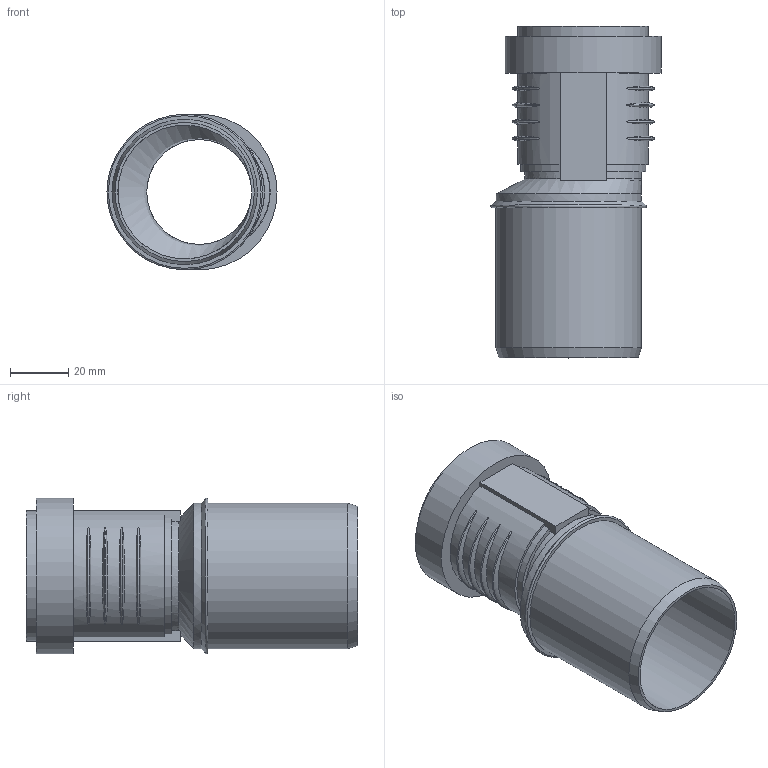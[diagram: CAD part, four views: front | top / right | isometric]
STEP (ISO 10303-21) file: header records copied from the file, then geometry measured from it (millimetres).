
FILE_DESCRIPTION(/* description */ (''),/* implementation_level */ '2;1');
FILE_NAME(/* name */ 'Z:\Geberit\Export\NewStep\390271.stp',/* time_stamp */ '2014-04-02T08:10:34+02:00',/* author */ ('ML'),/* organization */ (''),/* preprocessor_version */ 'ST-DEVELOPER v15.2',/* originating_system */ 'Autodesk Inventor 2014',/* authorisation */ '');
FILE_SCHEMA (('AUTOMOTIVE_DESIGN { 1 0 10303 214 3 1 1 }'));
Length unit declared in the file: millimetre
Products named in the file (3): 861301; 861400; 390271
Bounding box: 58.67 x 114.4 x 53.7 mm (x, y, z)
Volume: 38538.1 mm3; surface area: 39874.8 mm2
Topology: 2 solids, 2 shells, 68 faces, 162 edges, 112 vertices
Faces by surface type: torus 25, plane 20, cylinder 18, cone 3, bspline 2
Full cylindrical faces by diameter (mm): 36.15 x2, 40.15 x2, 41 x2, 45 x1, 46.15 x1, 49.7 x1, 50.15 x2, 53.7 x1
Entity records: 2598 total; most frequent: CARTESIAN_POINT 989, DIRECTION 296, ORIENTED_EDGE 290, EDGE_CURVE 145, AXIS2_PLACEMENT_3D 130, VERTEX_POINT 111, EDGE_LOOP 102, STYLED_ITEM 68
